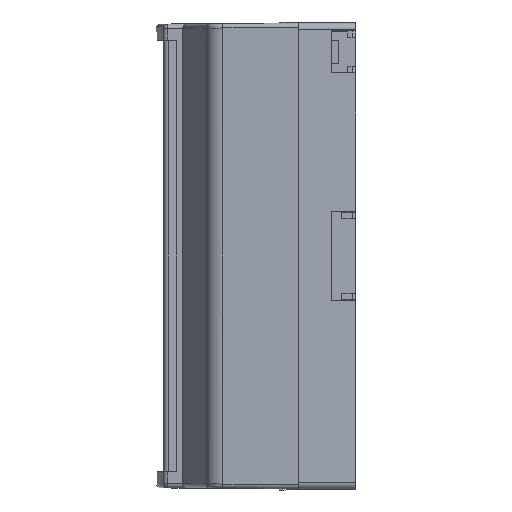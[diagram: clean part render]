
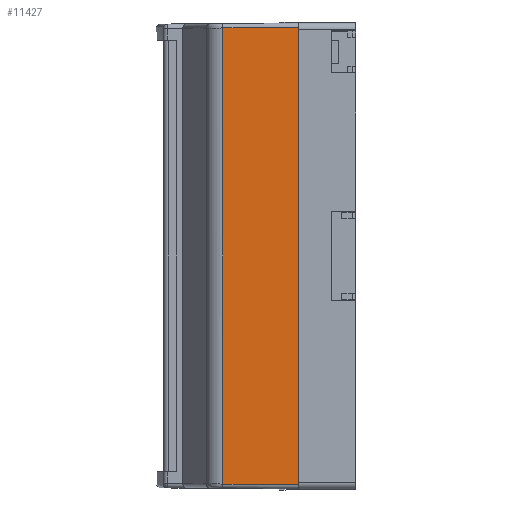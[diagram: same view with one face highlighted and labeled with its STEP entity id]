
A CAD part, left-side view. The second image highlights one B-rep face of the part: STEP entity #11427.
In plain terms, the highlighted planar face has unit normal (-1, 0.018, 0).
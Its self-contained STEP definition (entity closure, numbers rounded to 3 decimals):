
#79 = LINE ( 'NONE', #9644, #12834 ) ;
#278 = LINE ( 'NONE', #15537, #13032 ) ;
#441 = EDGE_CURVE ( 'NONE', #13365, #8712, #278, .T. ) ;
#681 = CARTESIAN_POINT ( 'NONE',  ( -45.25, -16.009, -51.5 ) ) ;
#1262 = VECTOR ( 'NONE', #15517, 1000. ) ;
#1468 = VERTEX_POINT ( 'NONE', #12694 ) ;
#3640 = ORIENTED_EDGE ( 'NONE', *, *, #10587, .F. ) ;
#3988 = ORIENTED_EDGE ( 'NONE', *, *, #12684, .T. ) ;
#4405 = PLANE ( 'NONE',  #13702 ) ;
#5702 = ORIENTED_EDGE ( 'NONE', *, *, #441, .T. ) ;
#5906 = LINE ( 'NONE', #5966, #8811 ) ;
#5966 = CARTESIAN_POINT ( 'NONE',  ( -44.954, 0.975, 51.352 ) ) ;
#6137 = EDGE_CURVE ( 'NONE', #8712, #8506, #11099, .T. ) ;
#6893 = CARTESIAN_POINT ( 'NONE',  ( -44.957, 0.785, 52.5 ) ) ;
#7205 = DIRECTION ( 'NONE',  ( 0.017, 1., -0.009 ) ) ;
#7324 = EDGE_LOOP ( 'NONE', ( #5702, #8653, #3640, #3988 ) ) ;
#8119 = DIRECTION ( 'NONE',  ( -0.017, -1., 0. ) ) ;
#8506 = VERTEX_POINT ( 'NONE', #11719 ) ;
#8653 = ORIENTED_EDGE ( 'NONE', *, *, #6137, .T. ) ;
#8712 = VERTEX_POINT ( 'NONE', #14858 ) ;
#8811 = VECTOR ( 'NONE', #7205, 1000. ) ;
#9644 = CARTESIAN_POINT ( 'NONE',  ( -45.25, -16., 52.5 ) ) ;
#9694 = DIRECTION ( 'NONE',  ( 0., 0., -1. ) ) ;
#10307 = CARTESIAN_POINT ( 'NONE',  ( -44.954, 0.984, 51.352 ) ) ;
#10587 = EDGE_CURVE ( 'NONE', #1468, #8506, #79, .T. ) ;
#11099 = LINE ( 'NONE', #681, #1262 ) ;
#11427 = ADVANCED_FACE ( 'NONE', ( #13594 ), #4405, .T. ) ;
#11719 = CARTESIAN_POINT ( 'NONE',  ( -45.25, -16., -51.5 ) ) ;
#12080 = DIRECTION ( 'NONE',  ( 0., 0., -1. ) ) ;
#12684 = EDGE_CURVE ( 'NONE', #1468, #13365, #5906, .T. ) ;
#12694 = CARTESIAN_POINT ( 'NONE',  ( -45.25, -16., 51.5 ) ) ;
#12834 = VECTOR ( 'NONE', #9694, 1000. ) ;
#13032 = VECTOR ( 'NONE', #12080, 1000. ) ;
#13365 = VERTEX_POINT ( 'NONE', #10307 ) ;
#13594 = FACE_OUTER_BOUND ( 'NONE', #7324, .T. ) ;
#13702 = AXIS2_PLACEMENT_3D ( 'NONE', #6893, #15513, #8119 ) ;
#14858 = CARTESIAN_POINT ( 'NONE',  ( -44.954, 0.984, -51.352 ) ) ;
#15513 = DIRECTION ( 'NONE',  ( -1., 0.017, 0. ) ) ;
#15517 = DIRECTION ( 'NONE',  ( -0.017, -1., -0.009 ) ) ;
#15537 = CARTESIAN_POINT ( 'NONE',  ( -44.954, 0.984, -52.325 ) ) ;
